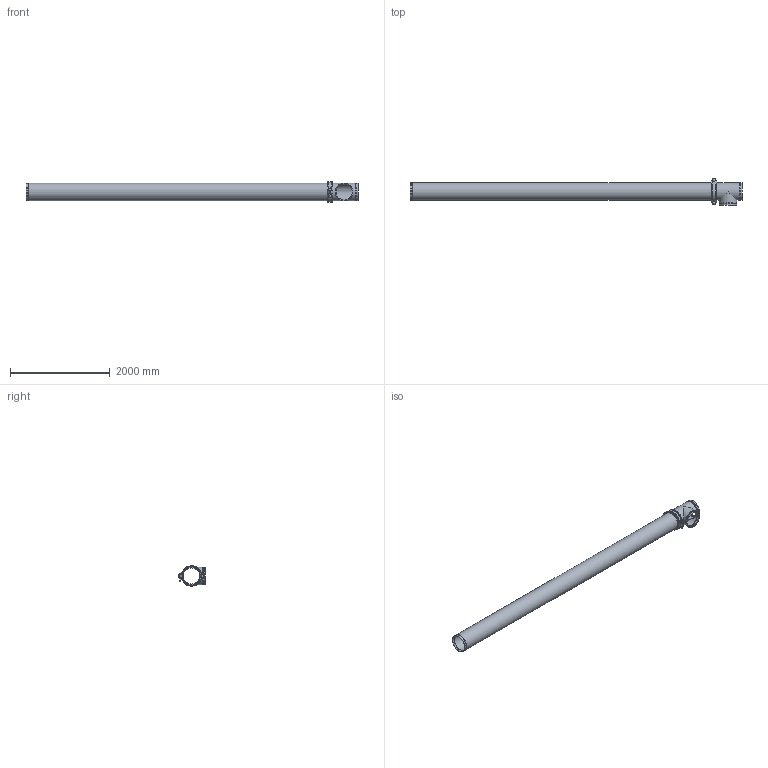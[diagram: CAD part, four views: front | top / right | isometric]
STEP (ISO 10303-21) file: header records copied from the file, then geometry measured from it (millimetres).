
FILE_DESCRIPTION(/* description */ ('VIC AGS LONG RUN FITTING No WR22 (AGS)','CAx-IF Rec.Pracs.---Representation and Presentation of Product Manufacturing Information (PMI)---4.0---2014-10-13'),/* implementation_level */ '2;1');
FILE_NAME(/* name */ 'C:\Users\kkamble\AppData\Roaming\Autodesk\ApplicationPlugins\Back Up\Victaulic_AGS_Long Run Fittings_No WR22 (AGS)\Victaulic_AGS_Long Run Fittings_No WR22 (AGS)_14 (350).stp',/* time_stamp */ '2020-10-07T02:49:19+05:00',/* author */ ('kkamble'),/* organization */ ('Victaulic'),/* preprocessor_version */ 'ST-DEVELOPER v17.2',/* originating_system */ 'Autodesk Inventor 2019',/* authorisation */ '');
FILE_SCHEMA (('AP242_MANAGED_MODEL_BASED_3D_ENGINEERING_MIM_LF { 1 0 10303 442 1 1 4 }'));
Length unit declared in the file: inch
Products named in the file (4): WR22-14.0; WR22-14.0_1; W77-14.0; W20-14.0
Assembly tree (3 placements, depth 2):
  WR22-14.0
    WR22-14.0_1
    W77-14.0
    W20-14.0
Bounding box: 6662.67 x 541.4 x 406.36 mm (x, y, z)
Volume: 73703663.7 mm3; surface area: 15134664.1 mm2
Topology: 3 solids, 5 shells, 340 faces, 1013 edges, 697 vertices
Faces by surface type: cylinder 161, plane 108, torus 56, cone 13, sphere 2
Full cylindrical faces by diameter (mm): 25.4 x4, 42.85 x2, 323.85 x3, 330.2 x1, 336.55 x6, 342.9 x5, 355.6 x10
Entity records: 13796 total; most frequent: CARTESIAN_POINT 4007, ORIENTED_EDGE 2026, DIRECTION 1956, EDGE_CURVE 1013, AXIS2_PLACEMENT_3D 788, VERTEX_POINT 697, CIRCLE 431, LINE 380
